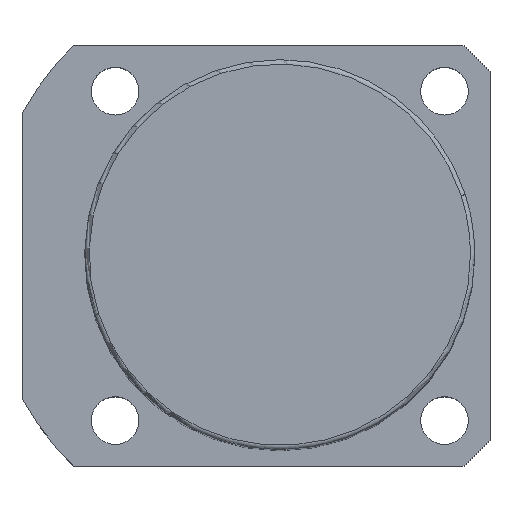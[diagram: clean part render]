
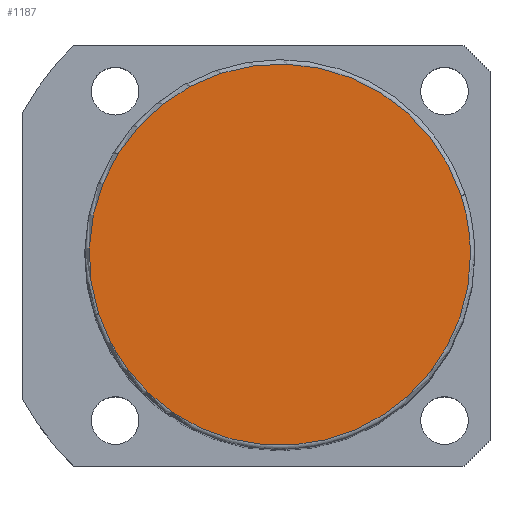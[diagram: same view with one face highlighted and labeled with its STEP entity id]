
A CAD part, top view. The second image highlights one B-rep face of the part: STEP entity #1187.
In plain terms, the highlighted planar face has unit normal (0, 0, 1).
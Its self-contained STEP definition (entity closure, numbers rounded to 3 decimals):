
#1120=CARTESIAN_POINT('',(41.846,13.597,176.5));
#1121=VERTEX_POINT('',#1120);
#1139=CARTESIAN_POINT('',(-41.846,-13.597,176.5));
#1140=VERTEX_POINT('',#1139);
#1148=CARTESIAN_POINT('',(0.0,0.0,176.5));
#1149=DIRECTION('',(0.0,0.0,1.0));
#1150=DIRECTION('',(1.0,0.0,0.0));
#1151=AXIS2_PLACEMENT_3D('',#1148,#1149,#1150);
#1152=CIRCLE('',#1151,44.0);
#1153=EDGE_CURVE('no 1727',#1121,#1140,#1152,.T.);
#1163=CARTESIAN_POINT('',(44.0,0.0,176.5));
#1164=VERTEX_POINT('',#1163);
#1165=CARTESIAN_POINT('',(0.0,0.0,176.5));
#1166=DIRECTION('',(0.0,0.0,1.0));
#1167=DIRECTION('',(1.0,0.0,0.0));
#1168=AXIS2_PLACEMENT_3D('',#1165,#1166,#1167);
#1169=CIRCLE('',#1168,44.0);
#1170=EDGE_CURVE('no 1736',#1164,#1121,#1169,.T.);
#1171=ORIENTED_EDGE('',*,*,#1170,.T.);
#1172=ORIENTED_EDGE('',*,*,#1153,.T.);
#1173=CARTESIAN_POINT('',(0.0,0.0,176.5));
#1174=DIRECTION('',(0.0,0.0,1.0));
#1175=DIRECTION('',(1.0,0.0,0.0));
#1176=AXIS2_PLACEMENT_3D('',#1173,#1174,#1175);
#1177=CIRCLE('',#1176,44.0);
#1178=EDGE_CURVE('no 1742',#1140,#1164,#1177,.T.);
#1179=ORIENTED_EDGE('',*,*,#1178,.T.);
#1180=EDGE_LOOP('',(#1171,#1172,#1179));
#1181=FACE_OUTER_BOUND('',#1180,.T.);
#1182=CARTESIAN_POINT('',(0.0,0.0,176.5));
#1183=DIRECTION('',(0.0,0.0,1.0));
#1184=DIRECTION('',(1.0,0.0,0.0));
#1185=AXIS2_PLACEMENT_3D('',#1182,#1183,#1184);
#1186=PLANE('',#1185);
#1187=ADVANCED_FACE('no 1729',(#1181),#1186,.T.);
